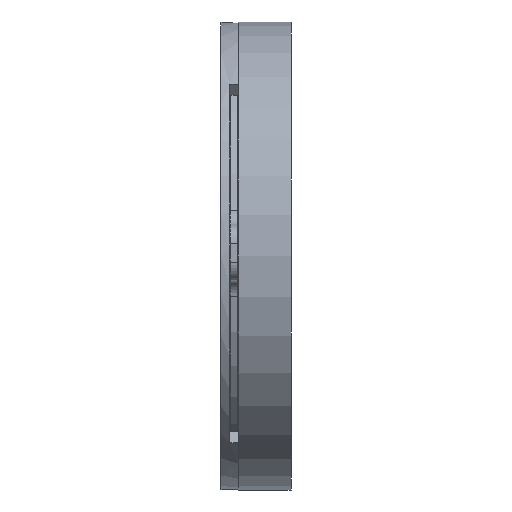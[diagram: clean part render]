
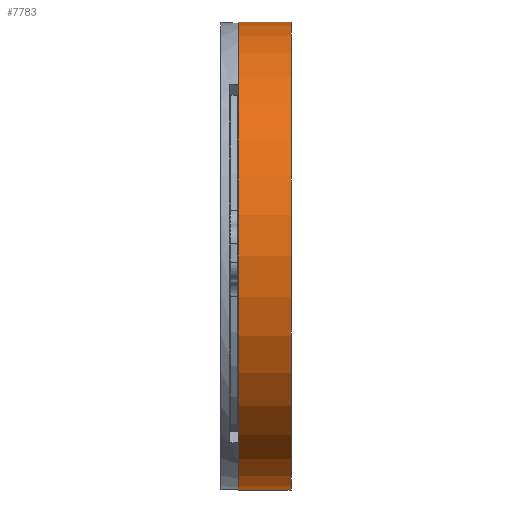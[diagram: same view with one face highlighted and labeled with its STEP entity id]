
A CAD part, left-side view. The second image highlights one B-rep face of the part: STEP entity #7783.
In plain terms, the highlighted cylindrical face has radius 40.087 mm (diameter 80.175 mm), a full revolution.
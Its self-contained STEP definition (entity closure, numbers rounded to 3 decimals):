
#191=CYLINDRICAL_SURFACE('',#8411,40.087);
#727=LINE('',#12190,#1460);
#1460=VECTOR('',#9786,40.087);
#2011=FACE_OUTER_BOUND('',#2497,.T.);
#2497=EDGE_LOOP('',(#5924,#5925,#5926,#5927));
#2931=CIRCLE('',#8412,40.087);
#2932=CIRCLE('',#8413,40.087);
#3491=VERTEX_POINT('',#12187);
#3492=VERTEX_POINT('',#12189);
#4372=EDGE_CURVE('',#3491,#3491,#2931,.T.);
#4373=EDGE_CURVE('',#3491,#3492,#727,.T.);
#4374=EDGE_CURVE('',#3492,#3492,#2932,.T.);
#5924=ORIENTED_EDGE('',*,*,#4372,.F.);
#5925=ORIENTED_EDGE('',*,*,#4373,.T.);
#5926=ORIENTED_EDGE('',*,*,#4374,.T.);
#5927=ORIENTED_EDGE('',*,*,#4373,.F.);
#7783=ADVANCED_FACE('',(#2011),#191,.T.);
#8411=AXIS2_PLACEMENT_3D('',#12186,#9782,#9783);
#8412=AXIS2_PLACEMENT_3D('',#12188,#9784,#9785);
#8413=AXIS2_PLACEMENT_3D('',#12191,#9787,#9788);
#9782=DIRECTION('center_axis',(0.,1.,0.));
#9783=DIRECTION('ref_axis',(1.,0.,0.));
#9784=DIRECTION('center_axis',(0.,1.,0.));
#9785=DIRECTION('ref_axis',(1.,0.,0.));
#9786=DIRECTION('',(0.,-1.,0.));
#9787=DIRECTION('center_axis',(0.,1.,0.));
#9788=DIRECTION('ref_axis',(1.,0.,0.));
#12186=CARTESIAN_POINT('Origin',(90.511,1.4,-16.322));
#12187=CARTESIAN_POINT('',(50.423,10.4,-16.322));
#12188=CARTESIAN_POINT('Origin',(90.511,10.4,-16.322));
#12189=CARTESIAN_POINT('',(50.423,1.4,-16.322));
#12190=CARTESIAN_POINT('',(50.423,1.4,-16.322));
#12191=CARTESIAN_POINT('Origin',(90.511,1.4,-16.322));
